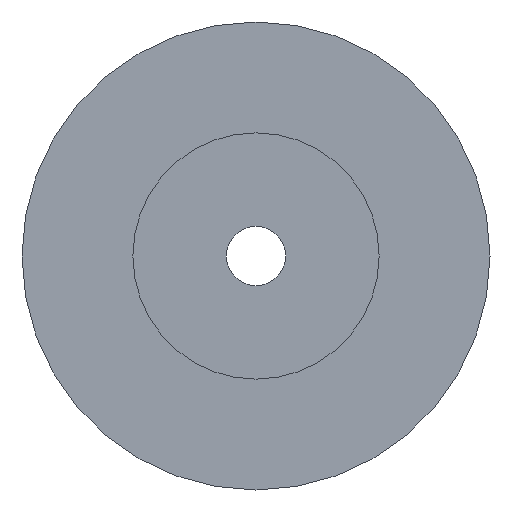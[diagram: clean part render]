
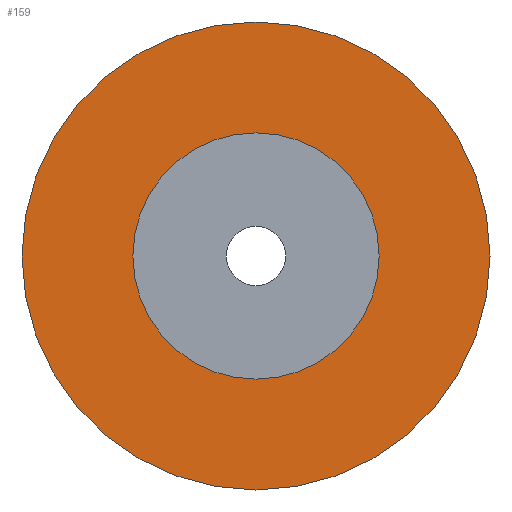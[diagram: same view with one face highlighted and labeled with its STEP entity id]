
A CAD part, front view. The second image highlights one B-rep face of the part: STEP entity #159.
In plain terms, the highlighted planar face has unit normal (0, -1, 0).
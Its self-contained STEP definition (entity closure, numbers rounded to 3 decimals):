
#24 = VERTEX_POINT('',#25);
#25 = CARTESIAN_POINT('',(95.,-28.,0.));
#32 = CYLINDRICAL_SURFACE('',#33,95.);
#33 = AXIS2_PLACEMENT_3D('',#34,#35,#36);
#34 = CARTESIAN_POINT('',(0.,0.,0.));
#35 = DIRECTION('',(-0.,1.,-0.));
#36 = DIRECTION('',(1.,0.,0.));
#51 = EDGE_CURVE('',#24,#24,#52,.T.);
#52 = SURFACE_CURVE('',#53,(#58,#65),.PCURVE_S1.);
#53 = CIRCLE('',#54,95.);
#54 = AXIS2_PLACEMENT_3D('',#55,#56,#57);
#55 = CARTESIAN_POINT('',(0.,-28.,0.));
#56 = DIRECTION('',(0.,-1.,0.));
#57 = DIRECTION('',(1.,0.,0.));
#58 = PCURVE('',#32,#59);
#59 = DEFINITIONAL_REPRESENTATION('',(#60),#64);
#60 = LINE('',#61,#62);
#61 = CARTESIAN_POINT('',(-0.,-28.));
#62 = VECTOR('',#63,1.);
#63 = DIRECTION('',(-1.,0.));
#64 = ( GEOMETRIC_REPRESENTATION_CONTEXT(2) 
PARAMETRIC_REPRESENTATION_CONTEXT() REPRESENTATION_CONTEXT('2D SPACE',''
  ) );
#65 = PCURVE('',#66,#71);
#66 = PLANE('',#67);
#67 = AXIS2_PLACEMENT_3D('',#68,#69,#70);
#68 = CARTESIAN_POINT('',(0.,-28.,0.));
#69 = DIRECTION('',(-0.,-1.,-0.));
#70 = DIRECTION('',(0.,0.,-1.));
#71 = DEFINITIONAL_REPRESENTATION('',(#72),#76);
#72 = CIRCLE('',#73,95.);
#73 = AXIS2_PLACEMENT_2D('',#74,#75);
#74 = CARTESIAN_POINT('',(0.,0.));
#75 = DIRECTION('',(0.,1.));
#76 = ( GEOMETRIC_REPRESENTATION_CONTEXT(2) 
PARAMETRIC_REPRESENTATION_CONTEXT() REPRESENTATION_CONTEXT('2D SPACE',''
  ) );
#159 = ADVANCED_FACE('',(#160,#163),#66,.T.);
#160 = FACE_BOUND('',#161,.T.);
#161 = EDGE_LOOP('',(#162));
#162 = ORIENTED_EDGE('',*,*,#51,.T.);
#163 = FACE_BOUND('',#164,.T.);
#164 = EDGE_LOOP('',(#165));
#165 = ORIENTED_EDGE('',*,*,#166,.F.);
#166 = EDGE_CURVE('',#167,#167,#169,.T.);
#167 = VERTEX_POINT('',#168);
#168 = CARTESIAN_POINT('',(50.,-28.,0.));
#169 = SURFACE_CURVE('',#170,(#175,#182),.PCURVE_S1.);
#170 = CIRCLE('',#171,50.);
#171 = AXIS2_PLACEMENT_3D('',#172,#173,#174);
#172 = CARTESIAN_POINT('',(0.,-28.,0.));
#173 = DIRECTION('',(0.,-1.,0.));
#174 = DIRECTION('',(1.,0.,0.));
#175 = PCURVE('',#66,#176);
#176 = DEFINITIONAL_REPRESENTATION('',(#177),#181);
#177 = CIRCLE('',#178,50.);
#178 = AXIS2_PLACEMENT_2D('',#179,#180);
#179 = CARTESIAN_POINT('',(0.,0.));
#180 = DIRECTION('',(0.,1.));
#181 = ( GEOMETRIC_REPRESENTATION_CONTEXT(2) 
PARAMETRIC_REPRESENTATION_CONTEXT() REPRESENTATION_CONTEXT('2D SPACE',''
  ) );
#182 = PCURVE('',#183,#188);
#183 = CYLINDRICAL_SURFACE('',#184,50.);
#184 = AXIS2_PLACEMENT_3D('',#185,#186,#187);
#185 = CARTESIAN_POINT('',(0.,0.,0.));
#186 = DIRECTION('',(-0.,1.,-0.));
#187 = DIRECTION('',(1.,0.,0.));
#188 = DEFINITIONAL_REPRESENTATION('',(#189),#193);
#189 = LINE('',#190,#191);
#190 = CARTESIAN_POINT('',(-0.,-28.));
#191 = VECTOR('',#192,1.);
#192 = DIRECTION('',(-1.,0.));
#193 = ( GEOMETRIC_REPRESENTATION_CONTEXT(2) 
PARAMETRIC_REPRESENTATION_CONTEXT() REPRESENTATION_CONTEXT('2D SPACE',''
  ) );
